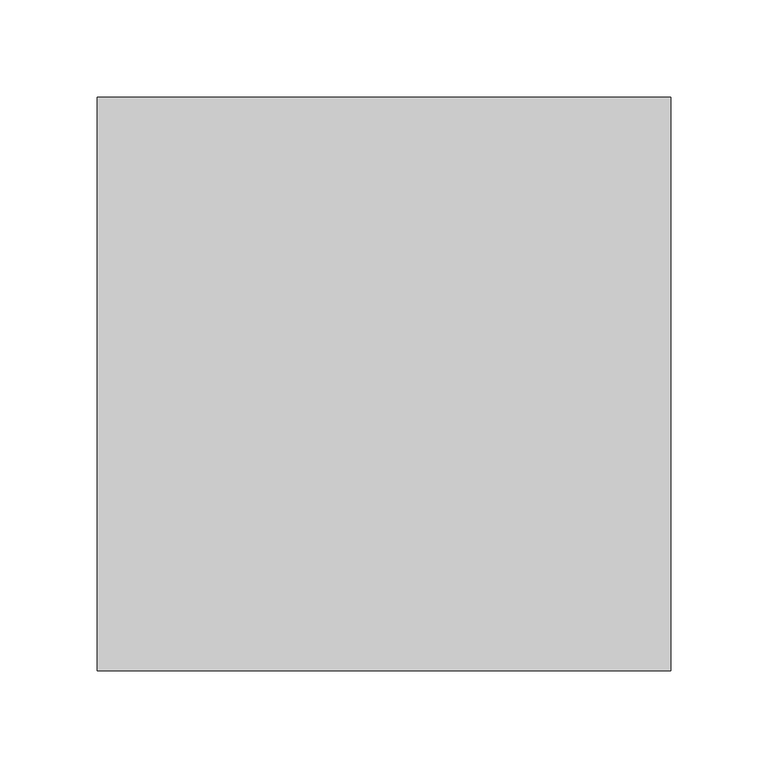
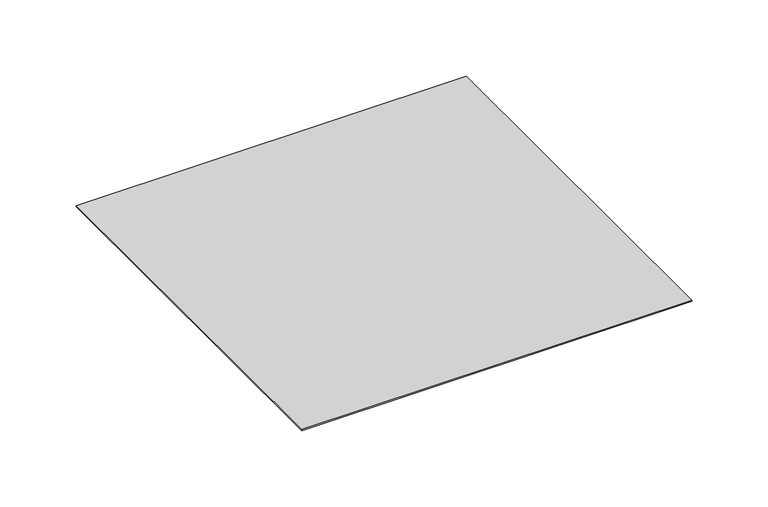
"""IFC4 building model written with IfcOpenShell, lengths in millimetres: duct fitting geometry, VE-Współdzielone-Płyta_Adaptacyjna-ParaForma-Harmann-DKP : Harmann."""

from ifc_helpers import new_model, si_unit, frame, origin, place, context, project, spatial, polyline, outline, extrude, source, transform, mapped, element, save


def duct_fitting_a10b473f(model_context):
    return source(origin(), model_context, "Body", "SweptSolid", [
        extrude(outline(polyline([(147.5, 147.5), (147.5, -147.5), (-147.5, -147.5), (-147.5, 147.5), (147.5, 147.5)])), frame((0.0, 0.0, -1.0), z_axis=(0.0, 0.0, 1.0), x_axis=(1.0, 0.0, 0.0)), (0.0, 0.0, 1.0), 1.0),
    ])


if __name__ == "__main__":
    model = new_model("IFC4")
    model_context = context("Model", 3, world=origin())
    ifc_project = project(units=[si_unit("LENGTHUNIT", "METRE", prefix="MILLI")], contexts=[model_context])
    site = spatial("IfcSite", under=ifc_project)
    building = spatial("IfcBuilding", under=site)
    placement = place(None, origin())
    duct_fitting_shape = duct_fitting_a10b473f(model_context)
    element("IfcDuctFitting", 1, ObjectType="VE-Współdzielone-Płyta_Adaptacyjna-ParaForma-Harmann-DKP : Harmann", at=placement, inside=building, context=model_context, shape_type="MappedRepresentation", body=[
        mapped(duct_fitting_shape, transform((0.0, 0.0, 0.0), x_axis=(1.0, 0.0, 0.0), y_axis=(0.0, 1.0, 0.0), z_axis=(0.0, 0.0, 1.0))),
    ])
    save(model, "model.ifc")
